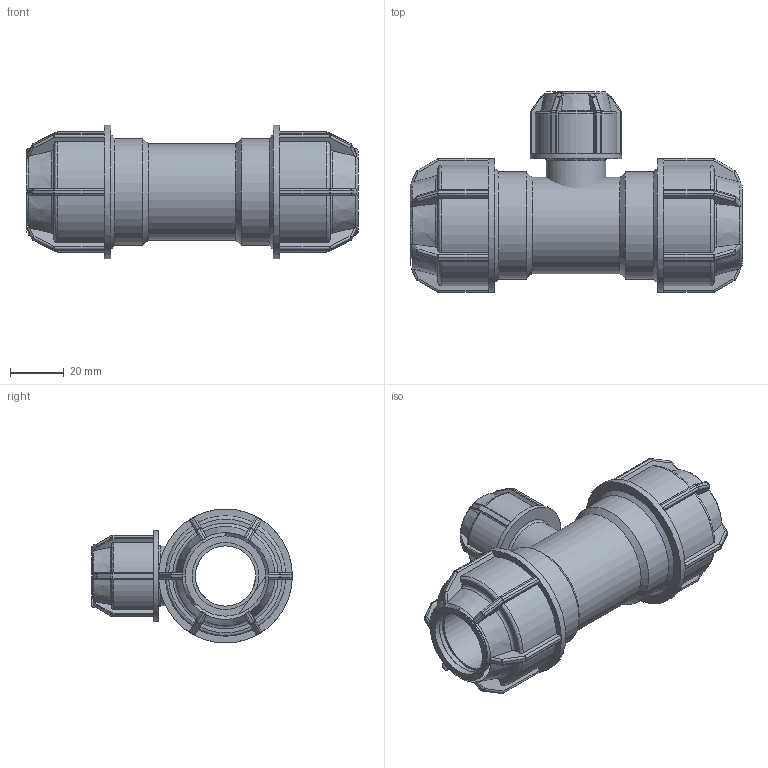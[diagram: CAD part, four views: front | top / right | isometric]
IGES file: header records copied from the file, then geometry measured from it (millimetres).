
Global section: file name: 143400025016.ipt; native system: Autodesk Inventor 2015; preprocessor: unknown; author: KIM; date: 20180409.131218; units: millimetre
Bounding box: 124 x 75 x 50 mm (x, y, z)
Volume: 119671.3 mm3; surface area: 37835.3 mm2
Topology: 2 solids, 2 shells, 598 faces, 1478 edges, 868 vertices
Faces by surface type: plane 287, cylinder 170, revolution 76, sphere 48, cone 17
Full cylindrical faces by diameter (mm): 13.6 x1, 22.4 x1, 34 x1, 36 x1, 40 x2, 50 x2
